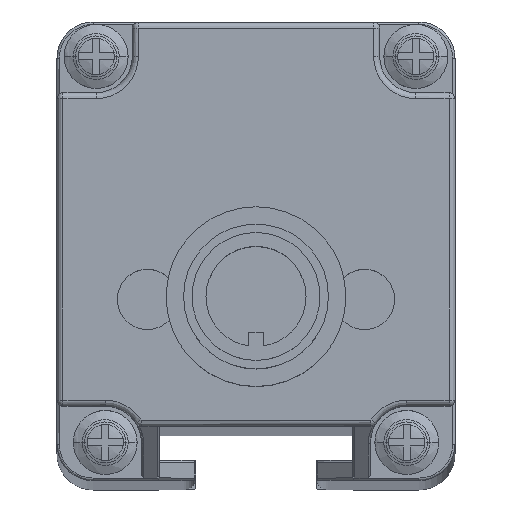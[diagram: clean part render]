
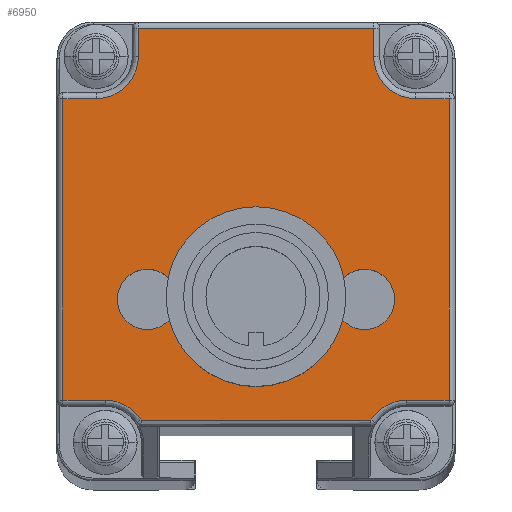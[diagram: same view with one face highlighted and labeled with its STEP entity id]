
A CAD part, top view. The second image highlights one B-rep face of the part: STEP entity #6950.
In plain terms, the highlighted planar face has unit normal (0, 0, 1).
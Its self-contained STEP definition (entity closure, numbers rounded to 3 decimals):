
#2821=CARTESIAN_POINT('',(-11.85,-19.904,
325.276));
#2822=DIRECTION('',(0.,0.,1.));
#2823=DIRECTION('',(0.849,0.528,0.));
#2824=AXIS2_PLACEMENT_3D('',#2821,#2822,#2823);
#2826=CARTESIAN_POINT('',(-12.6,12.094,325.276));
#2827=DIRECTION('',(0.,0.,1.));
#2828=DIRECTION('',(0.,-1.,0.));
#2829=AXIS2_PLACEMENT_3D('',#2826,#2827,#2828);
#2831=CARTESIAN_POINT('',(13.9,12.094,325.276));
#2832=DIRECTION('',(0.,0.,1.));
#2833=DIRECTION('',(-1.,0.,0.));
#2834=AXIS2_PLACEMENT_3D('',#2831,#2832,#2833);
#2836=CARTESIAN_POINT('',(13.15,-19.904,325.276));
#2837=DIRECTION('',(0.,0.,1.));
#2838=DIRECTION('',(0.,1.,0.));
#2839=AXIS2_PLACEMENT_3D('',#2836,#2837,#2838);
#2841=CARTESIAN_POINT('',(9.65,-8.055,325.276));
#2842=DIRECTION('',(0.,0.,1.));
#2843=DIRECTION('',(1.,-0.007,0.));
#2844=AXIS2_PLACEMENT_3D('',#2841,#2842,#2843);
#2846=CARTESIAN_POINT('',(9.65,-8.055,325.276));
#2847=DIRECTION('',(0.,0.,1.));
#2848=DIRECTION('',(-1.,0.007,0.));
#2849=AXIS2_PLACEMENT_3D('',#2846,#2847,#2848);
#2851=CARTESIAN_POINT('',(-8.35,-8.054,
325.276));
#2852=DIRECTION('',(0.,0.,1.));
#2853=DIRECTION('',(1.,0.007,0.));
#2854=AXIS2_PLACEMENT_3D('',#2851,#2852,#2853);
#2856=CARTESIAN_POINT('',(-8.35,-8.054,
325.276));
#2857=DIRECTION('',(0.,0.,1.));
#2858=DIRECTION('',(-1.,-0.007,0.));
#2859=AXIS2_PLACEMENT_3D('',#2856,#2857,#2858);
#2861=CARTESIAN_POINT('',(0.65,-8.054,
325.276));
#2862=DIRECTION('',(0.,0.,1.));
#2863=DIRECTION('',(1.,0.,0.));
#2864=AXIS2_PLACEMENT_3D('',#2861,#2862,#2863);
#2866=CARTESIAN_POINT('',(0.65,-8.054,
325.276));
#2867=DIRECTION('',(0.,0.,1.));
#2868=DIRECTION('',(-1.,0.,0.));
#2869=AXIS2_PLACEMENT_3D('',#2866,#2867,#2868);
#3050=DIRECTION('',(1.,0.,0.));
#3051=VECTOR('',#3050,19.056);
#3052=CARTESIAN_POINT('',(-8.878,-18.056,
325.276));
#3053=LINE('',#3052,#3051);
#3638=DIRECTION('',(0.,1.,0.));
#3639=VECTOR('',#3638,2.35);
#3640=CARTESIAN_POINT('',(10.4,12.094,325.276));
#3641=LINE('',#3640,#3639);
#3661=DIRECTION('',(-1.,0.,0.));
#3662=VECTOR('',#3661,19.5);
#3663=CARTESIAN_POINT('',(10.4,14.444,325.276));
#3664=LINE('',#3663,#3662);
#3685=DIRECTION('',(0.,-1.,0.));
#3686=VECTOR('',#3685,2.35);
#3687=CARTESIAN_POINT('',(-9.1,14.444,325.276));
#3688=LINE('',#3687,#3686);
#3712=DIRECTION('',(-1.,0.,0.));
#3713=VECTOR('',#3712,2.75);
#3714=CARTESIAN_POINT('',(-12.6,8.594,325.276));
#3715=LINE('',#3714,#3713);
#3883=DIRECTION('',(0.,-1.,0.));
#3884=VECTOR('',#3883,24.998);
#3885=CARTESIAN_POINT('',(-15.35,8.594,325.276));
#3886=LINE('',#3885,#3884);
#3922=DIRECTION('',(1.,0.,0.));
#3923=VECTOR('',#3922,3.5);
#3924=CARTESIAN_POINT('',(-15.35,-16.404,
325.276));
#3925=LINE('',#3924,#3923);
#4187=DIRECTION('',(-1.,0.,0.));
#4188=VECTOR('',#4187,2.75);
#4189=CARTESIAN_POINT('',(16.65,8.594,325.276));
#4190=LINE('',#4189,#4188);
#4246=DIRECTION('',(0.,1.,0.));
#4247=VECTOR('',#4246,24.998);
#4248=CARTESIAN_POINT('',(16.65,-16.404,325.276));
#4249=LINE('',#4248,#4247);
#4269=DIRECTION('',(1.,0.,0.));
#4270=VECTOR('',#4269,3.5);
#4271=CARTESIAN_POINT('',(13.15,-16.404,325.276));
#4272=LINE('',#4271,#4270);
#6014=CARTESIAN_POINT('',(12.15,-8.072,325.276));
#6015=VERTEX_POINT('',#6014);
#6016=CARTESIAN_POINT('',(7.15,-8.039,325.276));
#6017=VERTEX_POINT('',#6016);
#6018=CARTESIAN_POINT('',(-8.878,-18.056,
325.276));
#6019=CARTESIAN_POINT('',(-11.85,-16.404,
325.276));
#6020=VERTEX_POINT('',#6018);
#6021=VERTEX_POINT('',#6019);
#6022=CARTESIAN_POINT('',(-15.35,-16.404,
325.276));
#6023=VERTEX_POINT('',#6022);
#6024=CARTESIAN_POINT('',(-15.35,8.594,325.276));
#6025=VERTEX_POINT('',#6024);
#6026=CARTESIAN_POINT('',(-12.6,8.594,325.276));
#6027=VERTEX_POINT('',#6026);
#6028=CARTESIAN_POINT('',(-9.1,12.094,325.276));
#6029=VERTEX_POINT('',#6028);
#6030=CARTESIAN_POINT('',(-9.1,14.444,325.276));
#6031=VERTEX_POINT('',#6030);
#6032=CARTESIAN_POINT('',(10.4,14.444,325.276));
#6033=VERTEX_POINT('',#6032);
#6034=CARTESIAN_POINT('',(10.4,12.094,325.276));
#6035=VERTEX_POINT('',#6034);
#6036=CARTESIAN_POINT('',(13.9,8.594,325.276));
#6037=VERTEX_POINT('',#6036);
#6038=CARTESIAN_POINT('',(16.65,8.594,325.276));
#6039=VERTEX_POINT('',#6038);
#6040=CARTESIAN_POINT('',(16.65,-16.404,325.276));
#6041=VERTEX_POINT('',#6040);
#6042=CARTESIAN_POINT('',(13.15,-16.404,325.276));
#6043=VERTEX_POINT('',#6042);
#6044=CARTESIAN_POINT('',(10.178,-18.056,325.276));
#6045=VERTEX_POINT('',#6044);
#6046=CARTESIAN_POINT('',(-5.85,-8.037,
325.276));
#6047=CARTESIAN_POINT('',(-10.85,-8.07,
325.276));
#6048=VERTEX_POINT('',#6046);
#6049=VERTEX_POINT('',#6047);
#6050=CARTESIAN_POINT('',(3.65,-8.054,325.276));
#6051=CARTESIAN_POINT('',(-2.35,-8.054,
325.276));
#6052=VERTEX_POINT('',#6050);
#6053=VERTEX_POINT('',#6051);
#6899=CARTESIAN_POINT('',(0.65,0.944,
325.276));
#6900=DIRECTION('',(0.,0.,1.));
#6901=DIRECTION('',(1.,0.,0.));
#6902=AXIS2_PLACEMENT_3D('',#6899,#6900,#6901);
#6903=PLANE('',#6902);
#6905=ORIENTED_EDGE('',*,*,#6904,.T.);
#6907=ORIENTED_EDGE('',*,*,#6906,.F.);
#6909=ORIENTED_EDGE('',*,*,#6908,.F.);
#6911=ORIENTED_EDGE('',*,*,#6910,.F.);
#6913=ORIENTED_EDGE('',*,*,#6912,.T.);
#6915=ORIENTED_EDGE('',*,*,#6914,.F.);
#6917=ORIENTED_EDGE('',*,*,#6916,.F.);
#6919=ORIENTED_EDGE('',*,*,#6918,.F.);
#6921=ORIENTED_EDGE('',*,*,#6920,.T.);
#6923=ORIENTED_EDGE('',*,*,#6922,.F.);
#6925=ORIENTED_EDGE('',*,*,#6924,.F.);
#6927=ORIENTED_EDGE('',*,*,#6926,.F.);
#6929=ORIENTED_EDGE('',*,*,#6928,.T.);
#6931=ORIENTED_EDGE('',*,*,#6930,.F.);
#6932=EDGE_LOOP('',(#6905,#6907,#6909,#6911,#6913,#6915,#6917,#6919,#6921,#6923,
#6925,#6927,#6929,#6931));
#6933=FACE_OUTER_BOUND('',#6932,.F.);
#6934=ORIENTED_EDGE('',*,*,#6886,.T.);
#6935=ORIENTED_EDGE('',*,*,#6847,.T.);
#6936=EDGE_LOOP('',(#6934,#6935));
#6937=FACE_BOUND('',#6936,.F.);
#6939=ORIENTED_EDGE('',*,*,#6938,.T.);
#6941=ORIENTED_EDGE('',*,*,#6940,.T.);
#6942=EDGE_LOOP('',(#6939,#6941));
#6943=FACE_BOUND('',#6942,.F.);
#6945=ORIENTED_EDGE('',*,*,#6944,.T.);
#6947=ORIENTED_EDGE('',*,*,#6946,.T.);
#6948=EDGE_LOOP('',(#6945,#6947));
#6949=FACE_BOUND('',#6948,.F.);
#2825=CIRCLE('',#2824,3.5);
#2830=CIRCLE('',#2829,3.5);
#2835=CIRCLE('',#2834,3.5);
#2840=CIRCLE('',#2839,3.5);
#2845=CIRCLE('',#2844,2.5);
#2850=CIRCLE('',#2849,2.5);
#2855=CIRCLE('',#2854,2.5);
#2860=CIRCLE('',#2859,2.5);
#2865=CIRCLE('',#2864,3.);
#2870=CIRCLE('',#2869,3.);
#6847=EDGE_CURVE('',#6017,#6015,#2850,.T.);
#6886=EDGE_CURVE('',#6015,#6017,#2845,.T.);
#6904=EDGE_CURVE('',#6020,#6021,#2825,.T.);
#6906=EDGE_CURVE('',#6023,#6021,#3925,.T.);
#6908=EDGE_CURVE('',#6025,#6023,#3886,.T.);
#6910=EDGE_CURVE('',#6027,#6025,#3715,.T.);
#6912=EDGE_CURVE('',#6027,#6029,#2830,.T.);
#6914=EDGE_CURVE('',#6031,#6029,#3688,.T.);
#6916=EDGE_CURVE('',#6033,#6031,#3664,.T.);
#6918=EDGE_CURVE('',#6035,#6033,#3641,.T.);
#6920=EDGE_CURVE('',#6035,#6037,#2835,.T.);
#6922=EDGE_CURVE('',#6039,#6037,#4190,.T.);
#6924=EDGE_CURVE('',#6041,#6039,#4249,.T.);
#6926=EDGE_CURVE('',#6043,#6041,#4272,.T.);
#6928=EDGE_CURVE('',#6043,#6045,#2840,.T.);
#6930=EDGE_CURVE('',#6020,#6045,#3053,.T.);
#6938=EDGE_CURVE('',#6048,#6049,#2855,.T.);
#6940=EDGE_CURVE('',#6049,#6048,#2860,.T.);
#6944=EDGE_CURVE('',#6052,#6053,#2865,.T.);
#6946=EDGE_CURVE('',#6053,#6052,#2870,.T.);
#6950=ADVANCED_FACE('',(#6933,#6937,#6943,#6949),#6903,.T.);
